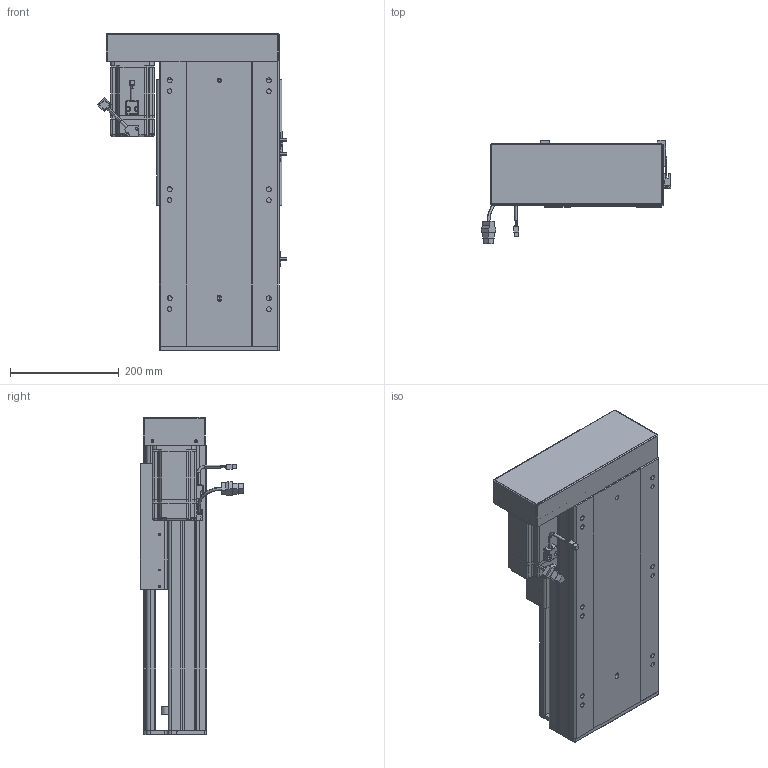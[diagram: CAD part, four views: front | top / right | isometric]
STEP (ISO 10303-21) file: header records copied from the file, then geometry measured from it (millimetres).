
FILE_DESCRIPTION (( 'STEP AP203' ), '1' );
FILE_NAME ('RY220-L2525-300-LK.SLDASM_200.step', '2022-07-04T01:46:17', ( '' ), ( '' ), 'SwSTEP 2.0', 'SolidWorks 2016', '' );
FILE_SCHEMA (( 'CONFIG_CONTROL_DESIGN' ));
Length unit declared in the file: millimetre
Products named in the file (12): RY220半封闭25-32螺母铝滑块; RY220綴裔啣; RY220-俋离672覜茼んえ; RY220左右折电机安装板; RY220蛌殏菁釱-300_200; 滅袉蝶18-10; RY220-L2525-300-LK.SLDASM_200; 覜茼ん672; 滅袉蝶18-15; RY220-300-蛌殏奻裔啣_200; 怢湛750W_ECMA-CX0807ES; RY220酘衵殏萇儂欶
Assembly tree (15 placements, depth 2):
  RY220-L2525-300-LK.SLDASM_200
    RY220蛌殏菁釱-300_200
    RY220-300-蛌殏奻裔啣_200
    怢湛750W_ECMA-CX0807ES
    滅袉蝶18-10  x2
    RY220-俋离672覜茼んえ
    覜茼ん672  x3
    RY220綴裔啣
    RY220半封闭25-32螺母铝滑块
    滅袉蝶18-15  x2
    RY220左右折电机安装板
    RY220酘衵殏萇儂欶
Bounding box: 347.44 x 189.27 x 582 mm (x, y, z)
Volume: 6385839.5 mm3; surface area: 1689208.1 mm2
Topology: 16 solids, 16 shells, 1979 faces, 5448 edges, 3477 vertices
Faces by surface type: plane 896, cylinder 851, cone 162, bspline 44, sphere 16, torus 10
Entity records: 65149 total; most frequent: CARTESIAN_POINT 19111, ORIENTED_EDGE 9600, DIRECTION 8868, EDGE_CURVE 4800, VERTEX_POINT 3133, AXIS2_PLACEMENT_3D 3061, LINE 2746, VECTOR 2746
